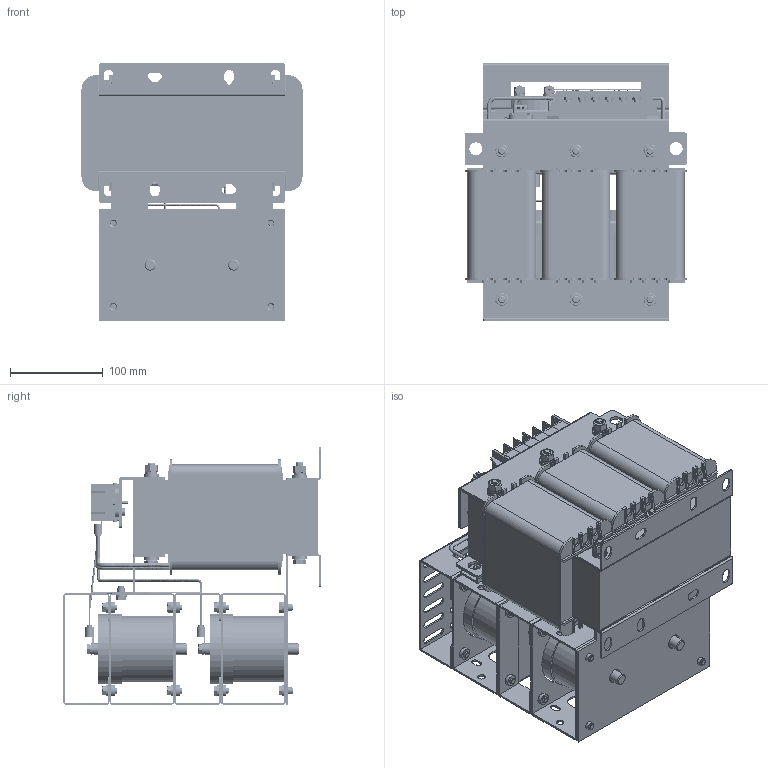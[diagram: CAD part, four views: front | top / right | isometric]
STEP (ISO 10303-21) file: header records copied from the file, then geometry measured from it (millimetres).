
FILE_DESCRIPTION(('STEP AP203'), '1');
FILE_NAME('蔓躅漤铋 耔眢耥 翳朦蝠 _ ISINOF-15_19-6', '', ('UNSPECIFIED'), ('UNSPECIFIED'), 'C3D Converter', 'C3D Toolkit', '');
FILE_SCHEMA(('CONFIG_CONTROL_DESIGN'));
Length unit declared in the file: millimetre
Products named in the file (45): ISINOF-15/19-6; LРНЦ吭X2\04560415\X0\1; 吒X2\0425\X0\72-80; 琵X2\0428\X0\崤X2\043A\X0\; №ЗјЬG40x80x120; А降еМх40-200-1; БщЅЗВЭЛЁM8; ИэПаМъРѕ200-200-78.5; ЙПјРјю НЁУГ40-80; ЙПјРјю40-80\X2\040Ô0448\X0\¶ЛЧУЦ§іЕ; ПВјРјю40-80НЁУГ; ПЯИ¦19A; DW8-06-02; ї琵X2\041E\X0\做зЧУKV223-2P; plain washers--product grade c gb_GB_FASTENER_WASHER_SMWC 8; spring lock washers--normal type gb_GB_FASTENER_WASHER_SW 8; hexagon nuts grade c gb_GB_FASTENER_NUT_SNC1 M8-N; 琵X2\04370418042D0458042C\X0\2 ; 琵X2\04370418042D0426\X0\吭X2\04560415\X0\; 琵X2\04370418042D0426\X0\吭X2\0458042C\X0\; ёЗЧУ (2); RNB14-6S; Harness_1-ХэПТІЁВЛІЁ琵X2\04370457211604160447\X0\SKS-SF-0019-6AЈЇ05; 琵X2\043704100412\X0\^Harness_1-ХэПТІЁВЛІЁ琵X2\04370457211604160447\X0\SKS-SF-0019-6AЈЇ05; Cable_2-ХэПТІЁВЛІЁ琵X2\04370457211604160447\X0\SKS-SF-0019-6AЈЇ05; 琵X2\043704100412\X0\^Cable_2-ХэПТІЁВЛІЁ琵X2\04370457211604160447\X0\SKS-SF-0019-6AЈЇ05; Cable_3-ХэПТІЁВЛІЁ琵X2\04370457211604160447\X0\SKS-SF-0019-6AЈЇ05; 琵X2\043704100412\X0\^Cable_3-ХэПТІЁВЛІЁ琵X2\04370457211604160447\X0\SKS-SF-0019-6AЈЇ05; Cable_4-ХэПТІЁВЛІЁ琵X2\04370457211604160447\X0\SKS-SF-0019-6AЈЇ05; 琵X2\043704100412\X0\^Cable_4-ХэПТІЁВЛІЁ琵X2\04370457211604160447\X0\SKS-SF-0019-6AЈЇ05; Cable_5-ХэПТІЁВЛІЁ琵X2\04370457211604160447\X0\SKS-SF-0019-6AЈЇ05; 琵X2\043704100412\X0\^Cable_5-ХэПТІЁВЛІЁ琵X2\04370457211604160447\X0\SKS-SF-0019-6AЈЇ05; Cable_6-ХэПТІЁВЛІЁ琵X2\04370457211604160447\X0\SKS-SF-0019-6AЈЇ05; 琵X2\043704100412\X0\^Cable_6-ХэПТІЁВЛІЁ琵X2\04370457211604160447\X0\SKS-SF-0019-6AЈЇ05; Cable_7-ХэПТІЁВЛІЁ琵X2\04370457211604160447\X0\SKS-SF-0019-6AЈЇ05; 琵X2\043704100412\X0\^Cable_7-ХэПТІЁВЛІЁ琵X2\04370457211604160447\X0\SKS-SF-0019-6AЈЇ05; Cable_8-ХэПТІЁВЛІЁ琵X2\04370457211604160447\X0\SKS-SF-0019-6AЈЇ05; 琵X2\043704100412\X0\^Cable_8-ХэПТІЁВЛІЁ琵X2\04370457211604160447\X0\SKS-SF-0019-6AЈЇ05; Cable_9-ХэПТІЁВЛІЁ琵X2\04370457211604160447\X0\SKS-SF-0019-6AЈЇ05; 琵X2\043704100412\X0\^Cable_9-ХэПТІЁВЛІЁ琵X2\04370457211604160447\X0\SKS-SF-0019-6AЈЇ05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
Assembly tree (155 placements, depth 3):
  ISINOF-15/19-6
    LРНЦ吭X2\04560415\X0\1  x2
    吒X2\0425\X0\72-80  x3
    琵X2\0428\X0\崤X2\043A\X0\
    №ЗјЬG40x80x120  x3
    А降еМх40-200-1  x6
    БщЅЗВЭЛЁM8  x6
    ИэПаМъРѕ200-200-78.5
    ЙПјРјю НЁУГ40-80
    ЙПјРјю40-80\X2\040Ô0448\X0\¶ЛЧУЦ§іЕ
    ПВјРјю40-80НЁУГ  x2
    ПЯИ¦19A  x3
    DW8-06-02
    ї琵X2\041E\X0\做зЧУKV223-2P
    plain washers--product grade c gb_GB_FASTENER_WASHER_SMWC 8  x24
    spring lock washers--normal type gb_GB_FASTENER_WASHER_SW 8  x6
    hexagon nuts grade c gb_GB_FASTENER_NUT_SNC1 M8-N  x6
    琵X2\04370418042D0458042C\X0\2   x2
    琵X2\04370418042D0426\X0\吭X2\04560415\X0\  x2
    琵X2\04370418042D0426\X0\吭X2\0458042C\X0\
    ёЗЧУ (2)
    RNB14-6S  x13
    Harness_1-ХэПТІЁВЛІЁ琵X2\04370457211604160447\X0\SKS-SF-0019-6AЈЇ05
      琵X2\043704100412\X0\^Harness_1-ХэПТІЁВЛІЁ琵X2\04370457211604160447\X0\SKS-SF-0019-6AЈЇ05
    Cable_2-ХэПТІЁВЛІЁ琵X2\04370457211604160447\X0\SKS-SF-0019-6AЈЇ05
      琵X2\043704100412\X0\^Cable_2-ХэПТІЁВЛІЁ琵X2\04370457211604160447\X0\SKS-SF-0019-6AЈЇ05
    Cable_3-ХэПТІЁВЛІЁ琵X2\04370457211604160447\X0\SKS-SF-0019-6AЈЇ05
      琵X2\043704100412\X0\^Cable_3-ХэПТІЁВЛІЁ琵X2\04370457211604160447\X0\SKS-SF-0019-6AЈЇ05
    Cable_4-ХэПТІЁВЛІЁ琵X2\04370457211604160447\X0\SKS-SF-0019-6AЈЇ05
      琵X2\043704100412\X0\^Cable_4-ХэПТІЁВЛІЁ琵X2\04370457211604160447\X0\SKS-SF-0019-6AЈЇ05
    Cable_5-ХэПТІЁВЛІЁ琵X2\04370457211604160447\X0\SKS-SF-0019-6AЈЇ05
      琵X2\043704100412\X0\^Cable_5-ХэПТІЁВЛІЁ琵X2\04370457211604160447\X0\SKS-SF-0019-6AЈЇ05
    Cable_6-ХэПТІЁВЛІЁ琵X2\04370457211604160447\X0\SKS-SF-0019-6AЈЇ05
      琵X2\043704100412\X0\^Cable_6-ХэПТІЁВЛІЁ琵X2\04370457211604160447\X0\SKS-SF-0019-6AЈЇ05
    Cable_7-ХэПТІЁВЛІЁ琵X2\04370457211604160447\X0\SKS-SF-0019-6AЈЇ05
      琵X2\043704100412\X0\^Cable_7-ХэПТІЁВЛІЁ琵X2\04370457211604160447\X0\SKS-SF-0019-6AЈЇ05
    Cable_8-ХэПТІЁВЛІЁ琵X2\04370457211604160447\X0\SKS-SF-0019-6AЈЇ05
      琵X2\043704100412\X0\^Cable_8-ХэПТІЁВЛІЁ琵X2\04370457211604160447\X0\SKS-SF-0019-6AЈЇ05
    Cable_9-ХэПТІЁВЛІЁ琵X2\04370457211604160447\X0\SKS-SF-0019-6AЈЇ05
      琵X2\043704100412\X0\^Cable_9-ХэПТІЁВЛІЁ琵X2\04370457211604160447\X0\SKS-SF-0019-6AЈЇ05
    Cable_10-ХэПТІЁВЛІЁ琵X2\04370457211604160447\X0\SKS-SF-0019-6AЈЇ05
      琵X2\043704100412\X0\^Cable_10-ХэПТІЁВЛІЁ琵X2\04370457211604160447\X0\SKS-SF-0019-6AЈЇ05
    plain washers--product grade c gb_GB_FASTENER_WASHER_SMWC 6  x24
    hex head bolts-full thread grade c gb_GB_FASTENER_BOLT_HHBFTC M6X12-N  x24
    DW8-06-02МщЦЅ
Bounding box: 240 x 278 x 277.5 mm (x, y, z)
Volume: 5908319.4 mm3; surface area: 1563275.4 mm2
Topology: 200 solids, 200 shells, 3620 faces, 8598 edges, 5543 vertices
Faces by surface type: plane 2431, cylinder 840, cone 301, bspline 42, torus 6
Full cylindrical faces by diameter (mm): 2 x1, 3 x2, 3.8 x2, 4 x10, 5 x12, 6 x63, 6.2 x13, 6.4 x13, 6.6 x24, 6.647 x6, 6.7 x12, 8 x21, 8.68 x6, 9 x24, 11 x30, 12 x39, 12.5 x6, 12.88 x6, 13.65 x1, 14 x2, 14.25 x1, 15 x1, 16 x30, 72 x6, 76 x3, 80 x4
Entity records: 96751 total; most frequent: CARTESIAN_POINT 31118, DIRECTION 9179, ORIENTED_EDGE 9078, EDGE_CURVE 4539, LINE 3397, VECTOR 3397, VERTEX_POINT 3032, AXIS2_PLACEMENT_3D 2891
